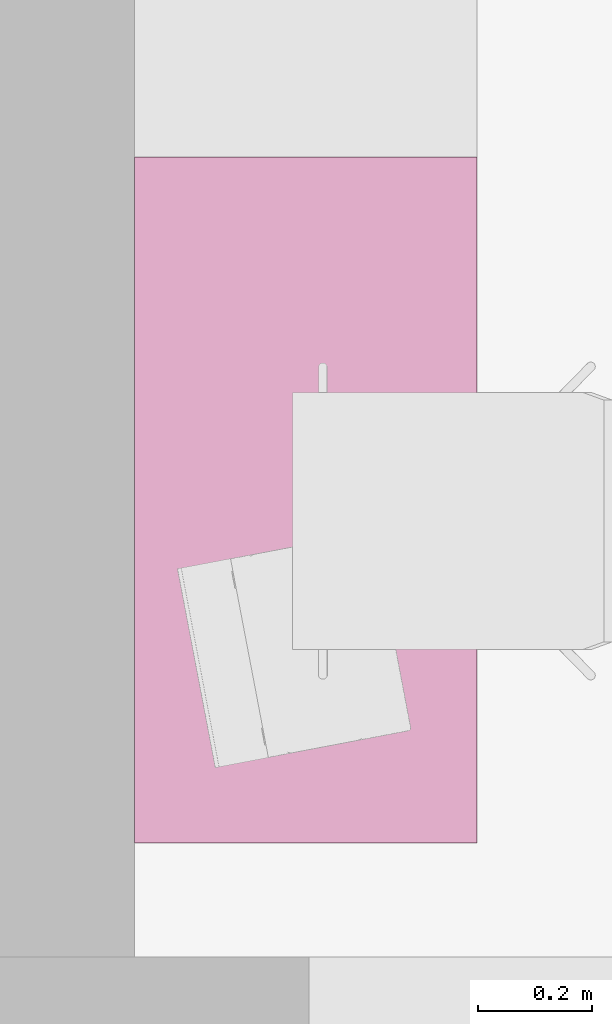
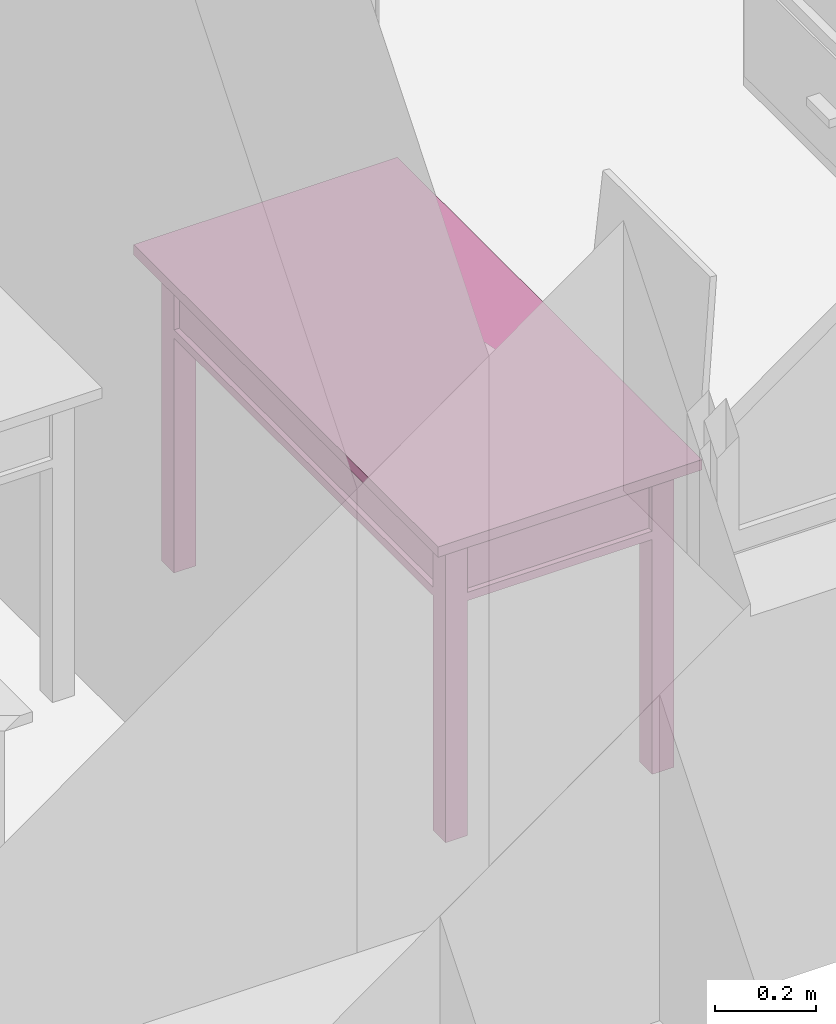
# One storey, part 96 of 172: 1 furnishing.
"""IFC2X3 building model written with IfcOpenShell, lengths in millimetres."""

from ifc_helpers import new_model, entity, si_unit, converted_unit, money_unit, direction, frame, origin_with_axes, place, context, subcontext, project, spatial, faceted_brep, source, transform, mapped, material, material_list, type_object, element, save


model = new_model("IFC2X3")

# Units and contexts
model_context = context("Model", 3, precision=1e-05, world=origin_with_axes(), true_north=direction((0.0, 1.0)))
body_context = subcontext(model_context, "Body", "Model", "MODEL_VIEW")
ifc_project = project(units=[si_unit("LENGTHUNIT", "METRE", prefix="MILLI"), si_unit("AREAUNIT", "SQUARE_METRE"), si_unit("VOLUMEUNIT", "CUBIC_METRE"), converted_unit("PLANEANGLEUNIT", "DEGREE", entity("IfcPlaneAngleMeasure", 0.0174532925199), si_unit("PLANEANGLEUNIT", "RADIAN"), dimensions=[0, 0, 0, 0, 0, 0, 0]), si_unit("SOLIDANGLEUNIT", "STERADIAN"), money_unit("USD"), converted_unit("TIMEUNIT", "Year", entity("IfcTimeMeasure", 31556926.0), si_unit("TIMEUNIT", "SECOND"), dimensions=[0, 0, 0, 0, 0, 0, 0]), si_unit("MASSUNIT", "GRAM"), si_unit("THERMODYNAMICTEMPERATUREUNIT", "DEGREE_CELSIUS"), si_unit("LUMINOUSINTENSITYUNIT", "LUMEN")], contexts=[model_context])

# Site, building, storey
site_placement = place(None, origin_with_axes())
site = spatial("IfcSite", under=ifc_project, at=site_placement, Name="Site", CompositionType="ELEMENT")
building_placement = place(site_placement, origin_with_axes())
building = spatial("IfcBuilding", under=site, at=building_placement, Name="Building", CompositionType="ELEMENT")
storey_placement = place(building_placement, frame((0.0, 0.0, 3200.0), z_axis=(0.0, 0.0, 1.0), x_axis=(1.0, 0.0, 0.0)))
storey = spatial("IfcBuildingStorey", under=building, at=storey_placement, Name="3KORRUS", CompositionType="ELEMENT", Elevation=3200.0)

# Furnishing
ifc_material = material(Name="Background")
ifc_material_list = material_list([ifc_material])
furnishing_element_type = type_object("IfcFurnishingElementType", Name="Rectangular Table 01 19")
shared_shape = source(origin_with_axes(), body_context, "Body", "Brep", [
    faceted_brep([(90.0, 40.0, 0.0), (40.0, 40.0, 0.0), (40.0, 90.0, 0.0), (90.0, 90.0, 0.0), (90.0, 40.0, 725.0), (40.0, 40.0, 725.0), (40.0, 90.0, 725.0), (90.0, 90.0, 725.0)], [[[0, 1, 2, 3]], [[1, 0, 4, 5]], [[2, 1, 5, 6]], [[3, 2, 6, 7]], [[0, 3, 7, 4]], [[5, 4, 7, 6]]]),
    faceted_brep([(1160.0, 40.0, 0.0), (1110.0, 40.0, 0.0), (1110.0, 90.0, 0.0), (1160.0, 90.0, 0.0), (1160.0, 40.0, 725.0), (1110.0, 40.0, 725.0), (1110.0, 90.0, 725.0), (1160.0, 90.0, 725.0)], [[[0, 1, 2, 3]], [[1, 0, 4, 5]], [[2, 1, 5, 6]], [[3, 2, 6, 7]], [[0, 3, 7, 4]], [[5, 4, 7, 6]]]),
    faceted_brep([(90.0, 510.0, 0.0), (40.0, 510.0, 0.0), (40.0, 560.0, 0.0), (90.0, 560.0, 0.0), (90.0, 510.0, 725.0), (40.0, 510.0, 725.0), (40.0, 560.0, 725.0), (90.0, 560.0, 725.0)], [[[0, 1, 2, 3]], [[1, 0, 4, 5]], [[2, 1, 5, 6]], [[3, 2, 6, 7]], [[0, 3, 7, 4]], [[5, 4, 7, 6]]]),
    faceted_brep([(1160.0, 510.0, 0.0), (1110.0, 510.0, 0.0), (1110.0, 560.0, 0.0), (1160.0, 560.0, 0.0), (1160.0, 510.0, 725.0), (1110.0, 510.0, 725.0), (1110.0, 560.0, 725.0), (1160.0, 560.0, 725.0)], [[[0, 1, 2, 3]], [[1, 0, 4, 5]], [[2, 1, 5, 6]], [[3, 2, 6, 7]], [[0, 3, 7, 4]], [[5, 4, 7, 6]]]),
    faceted_brep([(1160.0, 40.0, 565.0), (40.0, 40.0, 565.0), (40.0, 560.0, 565.0), (1160.0, 560.0, 565.0), (1160.0, 40.0, 585.0), (40.0, 40.0, 585.0), (40.0, 560.0, 585.0), (1160.0, 560.0, 585.0)], [[[0, 1, 2, 3]], [[1, 0, 4, 5]], [[2, 1, 5, 6]], [[3, 2, 6, 7]], [[0, 3, 7, 4]], [[5, 4, 7, 6]]]),
    faceted_brep([(1110.0, 52.5, 585.0), (90.0, 52.5, 585.0), (90.0, 77.5, 585.0), (1110.0, 77.5, 585.0), (1110.0, 52.5, 745.0), (90.0, 52.5, 745.0), (90.0, 77.5, 745.0), (1110.0, 77.5, 745.0)], [[[0, 1, 2, 3]], [[1, 0, 4, 5]], [[2, 1, 5, 6]], [[3, 2, 6, 7]], [[0, 3, 7, 4]], [[5, 4, 7, 6]]]),
    faceted_brep([(77.5, 90.0, 585.0), (52.5, 90.0, 585.0), (52.5, 510.0, 585.0), (77.5, 510.0, 585.0), (77.5, 90.0, 745.0), (52.5, 90.0, 745.0), (52.5, 510.0, 745.0), (77.5, 510.0, 745.0)], [[[0, 1, 2, 3]], [[1, 0, 4, 5]], [[2, 1, 5, 6]], [[3, 2, 6, 7]], [[0, 3, 7, 4]], [[5, 4, 7, 6]]]),
    faceted_brep([(90.0, 547.5, 585.0), (1110.0, 547.5, 585.0), (1110.0, 522.5, 585.0), (90.0, 522.5, 585.0), (90.0, 547.5, 745.0), (1110.0, 547.5, 745.0), (1110.0, 522.5, 745.0), (90.0, 522.5, 745.0)], [[[0, 1, 2, 3]], [[1, 0, 4, 5]], [[2, 1, 5, 6]], [[3, 2, 6, 7]], [[0, 3, 7, 4]], [[5, 4, 7, 6]]]),
    faceted_brep([(1122.5, 510.0, 585.0), (1147.5, 510.0, 585.0), (1147.5, 90.0, 585.0), (1122.5, 90.0, 585.0), (1122.5, 510.0, 745.0), (1147.5, 510.0, 745.0), (1147.5, 90.0, 745.0), (1122.5, 90.0, 745.0)], [[[0, 1, 2, 3]], [[1, 0, 4, 5]], [[2, 1, 5, 6]], [[3, 2, 6, 7]], [[0, 3, 7, 4]], [[5, 4, 7, 6]]]),
    faceted_brep([(597.5, 40.0, 585.0), (95.0, 40.0, 585.0), (95.0, 60.0, 585.0), (597.5, 60.0, 585.0), (597.5, 40.0, 745.0), (95.0, 40.0, 745.0), (95.0, 60.0, 745.0), (597.5, 60.0, 745.0)], [[[0, 1, 2, 3]], [[1, 0, 4, 5]], [[2, 1, 5, 6]], [[3, 2, 6, 7]], [[0, 3, 7, 4]], [[5, 4, 7, 6]]]),
    faceted_brep([(1105.0, 40.0, 585.0), (602.5, 40.0, 585.0), (602.5, 60.0, 585.0), (1105.0, 60.0, 585.0), (1105.0, 40.0, 745.0), (602.5, 40.0, 745.0), (602.5, 60.0, 745.0), (1105.0, 60.0, 745.0)], [[[0, 1, 2, 3]], [[1, 0, 4, 5]], [[2, 1, 5, 6]], [[3, 2, 6, 7]], [[0, 3, 7, 4]], [[5, 4, 7, 6]]]),
    faceted_brep([(354.91, 40.0, 660.0), (351.25, 40.0, 656.34), (346.25, 40.0, 655.0), (341.25, 40.0, 656.34), (337.59, 40.0, 660.0), (336.25, 40.0, 665.0), (337.59, 40.0, 670.0), (341.25, 40.0, 673.66), (346.25, 40.0, 675.0), (351.25, 40.0, 673.66), (354.91, 40.0, 670.0), (356.25, 40.0, 665.0), (354.91, 25.0, 660.0), (351.25, 25.0, 656.34), (346.25, 25.0, 655.0), (341.25, 25.0, 656.34), (337.59, 25.0, 660.0), (336.25, 25.0, 665.0), (337.59, 25.0, 670.0), (341.25, 25.0, 673.66), (346.25, 25.0, 675.0), (351.25, 25.0, 673.66), (354.91, 25.0, 670.0), (356.25, 25.0, 665.0)], [[[0, 1, 2, 3, 4, 5, 6, 7, 8, 9, 10, 11]], [[1, 0, 12, 13]], [[2, 1, 13, 14]], [[3, 2, 14, 15]], [[4, 3, 15, 16]], [[5, 4, 16, 17]], [[6, 5, 17, 18]], [[7, 6, 18, 19]], [[8, 7, 19, 20]], [[9, 8, 20, 21]], [[10, 9, 21, 22]], [[11, 10, 22, 23]], [[0, 11, 23, 12]], [[12, 23, 22, 21, 20, 19, 18, 17, 16, 15, 14, 13]]]),
    faceted_brep([(356.25, 12.01, 665.0), (346.25, 10.0, 665.0), (354.91, 12.01, 660.0), (354.91, 12.01, 670.0), (351.25, 12.01, 656.34), (363.571, 17.5, 665.0), (361.25, 17.5, 656.34), (351.25, 12.01, 673.66), (361.25, 17.5, 673.66), (346.25, 12.01, 655.0), (354.91, 17.5, 650.0), (366.25, 25.0, 665.0), (363.571, 25.0, 655.0), (346.25, 12.01, 675.0), (354.91, 17.5, 680.0), (363.571, 25.0, 675.0), (341.25, 12.01, 656.34), (346.25, 17.5, 647.679), (356.25, 25.0, 647.679), (346.25, 25.0, 645.0), (336.25, 25.0, 647.679), (328.929, 25.0, 655.0), (326.25, 25.0, 665.0), (328.929, 25.0, 675.0), (336.25, 25.0, 682.321), (346.25, 25.0, 685.0), (356.25, 25.0, 682.321), (341.25, 12.01, 673.66), (346.25, 17.5, 682.321), (337.59, 12.01, 660.0), (337.59, 17.5, 650.0), (331.25, 17.5, 656.34), (328.929, 17.5, 665.0), (331.25, 17.5, 673.66), (337.59, 17.5, 680.0), (337.59, 12.01, 670.0), (336.25, 12.01, 665.0)], [[[0, 1, 2]], [[3, 1, 0]], [[2, 1, 4]], [[5, 0, 2, 6]], [[7, 1, 3]], [[8, 3, 0, 5]], [[4, 1, 9]], [[6, 2, 4, 10]], [[11, 5, 6, 12]], [[13, 1, 7]], [[14, 7, 3, 8]], [[15, 8, 5, 11]], [[9, 1, 16]], [[10, 4, 9, 17]], [[12, 6, 10, 18]], [[12, 18, 19, 20, 21, 22, 23, 24, 25, 26, 15, 11]], [[27, 1, 13]], [[28, 13, 7, 14]], [[26, 14, 8, 15]], [[16, 1, 29]], [[17, 9, 16, 30]], [[18, 10, 17, 19]], [[19, 17, 30, 20]], [[20, 30, 31, 21]], [[21, 31, 32, 22]], [[22, 32, 33, 23]], [[23, 33, 34, 24]], [[24, 34, 28, 25]], [[25, 28, 14, 26]], [[35, 1, 27]], [[34, 27, 13, 28]], [[29, 1, 36]], [[30, 16, 29, 31]], [[31, 29, 36, 32]], [[32, 36, 35, 33]], [[33, 35, 27, 34]], [[36, 1, 35]]]),
    faceted_brep([(862.41, 40.0, 660.0), (858.75, 40.0, 656.34), (853.75, 40.0, 655.0), (848.75, 40.0, 656.34), (845.09, 40.0, 660.0), (843.75, 40.0, 665.0), (845.09, 40.0, 670.0), (848.75, 40.0, 673.66), (853.75, 40.0, 675.0), (858.75, 40.0, 673.66), (862.41, 40.0, 670.0), (863.75, 40.0, 665.0), (862.41, 25.0, 660.0), (858.75, 25.0, 656.34), (853.75, 25.0, 655.0), (848.75, 25.0, 656.34), (845.09, 25.0, 660.0), (843.75, 25.0, 665.0), (845.09, 25.0, 670.0), (848.75, 25.0, 673.66), (853.75, 25.0, 675.0), (858.75, 25.0, 673.66), (862.41, 25.0, 670.0), (863.75, 25.0, 665.0)], [[[0, 1, 2, 3, 4, 5, 6, 7, 8, 9, 10, 11]], [[1, 0, 12, 13]], [[2, 1, 13, 14]], [[3, 2, 14, 15]], [[4, 3, 15, 16]], [[5, 4, 16, 17]], [[6, 5, 17, 18]], [[7, 6, 18, 19]], [[8, 7, 19, 20]], [[9, 8, 20, 21]], [[10, 9, 21, 22]], [[11, 10, 22, 23]], [[0, 11, 23, 12]], [[12, 23, 22, 21, 20, 19, 18, 17, 16, 15, 14, 13]]]),
    faceted_brep([(863.75, 12.01, 665.0), (853.75, 10.0, 665.0), (862.41, 12.01, 660.0), (862.41, 12.01, 670.0), (858.75, 12.01, 656.34), (871.071, 17.5, 665.0), (868.75, 17.5, 656.34), (858.75, 12.01, 673.66), (868.75, 17.5, 673.66), (853.75, 12.01, 655.0), (862.41, 17.5, 650.0), (873.75, 25.0, 665.0), (871.071, 25.0, 655.0), (853.75, 12.01, 675.0), (862.41, 17.5, 680.0), (871.071, 25.0, 675.0), (848.75, 12.01, 656.34), (853.75, 17.5, 647.679), (863.75, 25.0, 647.679), (853.75, 25.0, 645.0), (843.75, 25.0, 647.679), (836.429, 25.0, 655.0), (833.75, 25.0, 665.0), (836.429, 25.0, 675.0), (843.75, 25.0, 682.321), (853.75, 25.0, 685.0), (863.75, 25.0, 682.321), (848.75, 12.01, 673.66), (853.75, 17.5, 682.321), (845.09, 12.01, 660.0), (845.09, 17.5, 650.0), (838.75, 17.5, 656.34), (836.429, 17.5, 665.0), (838.75, 17.5, 673.66), (845.09, 17.5, 680.0), (845.09, 12.01, 670.0), (843.75, 12.01, 665.0)], [[[0, 1, 2]], [[3, 1, 0]], [[2, 1, 4]], [[5, 0, 2, 6]], [[7, 1, 3]], [[8, 3, 0, 5]], [[4, 1, 9]], [[6, 2, 4, 10]], [[11, 5, 6, 12]], [[13, 1, 7]], [[14, 7, 3, 8]], [[15, 8, 5, 11]], [[9, 1, 16]], [[10, 4, 9, 17]], [[12, 6, 10, 18]], [[12, 18, 19, 20, 21, 22, 23, 24, 25, 26, 15, 11]], [[27, 1, 13]], [[28, 13, 7, 14]], [[26, 14, 8, 15]], [[16, 1, 29]], [[17, 9, 16, 30]], [[18, 10, 17, 19]], [[19, 17, 30, 20]], [[20, 30, 31, 21]], [[21, 31, 32, 22]], [[22, 32, 33, 23]], [[23, 33, 34, 24]], [[24, 34, 28, 25]], [[25, 28, 14, 26]], [[35, 1, 27]], [[34, 27, 13, 28]], [[29, 1, 36]], [[30, 16, 29, 31]], [[31, 29, 36, 32]], [[32, 36, 35, 33]], [[33, 35, 27, 34]], [[36, 1, 35]]]),
    faceted_brep([(1200.0, 0.0, 725.0), (0.0, 0.0, 725.0), (0.0, 600.0, 725.0), (1200.0, 600.0, 725.0), (1200.0, 0.0, 750.0), (0.0, 0.0, 750.0), (0.0, 600.0, 750.0), (1200.0, 600.0, 750.0)], [[[0, 1, 2, 3]], [[1, 0, 4, 5]], [[2, 1, 5, 6]], [[3, 2, 6, 7]], [[0, 3, 7, 4]], [[5, 4, 7, 6]]]),
])
furnishing_placement = place(storey_placement, frame((-35390.2967033, -19439.2398994, 0.0), z_axis=(0.0, 0.0, 1.0), x_axis=(0.0, 1.0, 0.0)))
element("IfcFurnishingElement", 1, at=furnishing_placement, inside=storey, type_object=furnishing_element_type, material=ifc_material_list, Name="FU - 011", context=body_context, shape_type="MappedRepresentation", body=[
    mapped(shared_shape, transform((0.0, 0.0, 0.0))),
])

save(model, "model.ifc")
